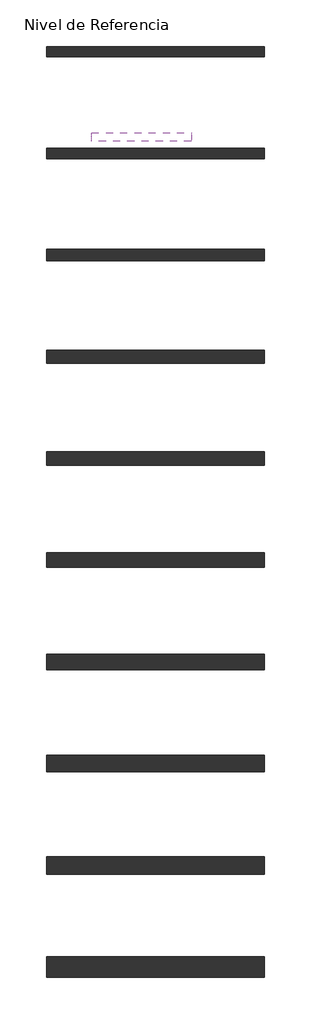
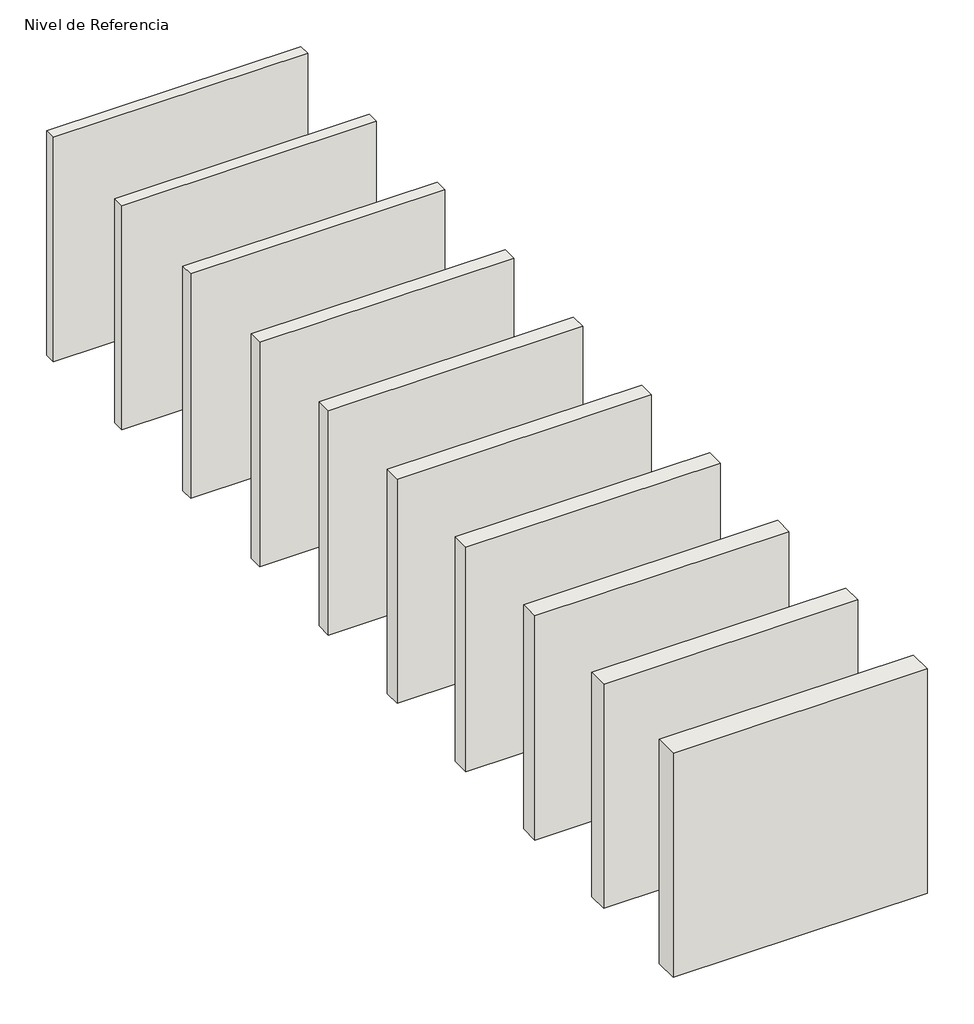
# One storey: 10 walls, 1 pipe segment.
"""IFC4 building model written with IfcOpenShell, lengths in millimetres."""

from ifc_helpers import new_model, si_unit, point, frame, frame_2d, origin, origin_with_axes, place, context, project, spatial, polyline, circle_curve, trimmed, segment, composite_curve, outline, extrude, element, save

model = new_model("IFC4")

# Units and contexts
model_context = context("Model", 3, world=origin())
ifc_project = project(units=[si_unit("LENGTHUNIT", "METRE", prefix="MILLI")], contexts=[model_context])

# Site, building, storey
site = spatial("IfcSite", under=ifc_project)
building = spatial("IfcBuilding", under=site)
storey = spatial("IfcBuildingStorey", under=building, Name="Nivel de Referencia", Elevation=0.0)

# Pipe segment
placement = place(None, origin())
element("IfcPipeSegment", 1, ObjectType="Default", at=placement, inside=storey, context=model_context, shape_type="SweptSolid", body=[
    extrude(outline(composite_curve([segment(trimmed(circle_curve(frame_2d((-1901.9152986, 2743.2)), 84.1375), [point((-1986.0527986, 2743.2))], [point((-1901.9152986, 2827.3375))], False, "CARTESIAN"), True, "CONTINUOUS"), segment(trimmed(circle_curve(frame_2d((-1901.9152986, 2743.2)), 84.1375), [point((-1901.9152986, 2827.3375))], [point((-1817.7777986, 2743.2))], False, "CARTESIAN"), True, "CONTINUOUS"), segment(trimmed(circle_curve(frame_2d((-1901.9152986, 2743.2)), 84.1375), [point((-1817.7777986, 2743.2))], [point((-1901.9152986, 2659.0625))], False, "CARTESIAN"), True, "CONTINUOUS"), segment(trimmed(circle_curve(frame_2d((-1901.9152986, 2743.2)), 84.1375), [point((-1901.9152986, 2659.0625))], [point((-1986.0527986, 2743.2))], False, "CARTESIAN"), True, "CONTINUOUS")], self_intersect=False)), frame((-5267.2929399, 0.0, 0.0), z_axis=(1.0, 0.0, 0.0), x_axis=(0.0, 1.0, 0.0)), (0.0, 0.0, 1.0), 1960.0),
])

# Walls
element("IfcWall", 2, ObjectType="Fachada REDArt Acabado Silicona 50mm", at=placement, inside=storey, context=model_context, shape_type="SweptSolid", body=[
    extrude(outline(polyline([(-1870.4218601, -318.1432876), (-6157.9916141, -318.1432876), (-6157.9916141, -121.0432876), (-1870.4218601, -121.0432876), (-1870.4218601, -318.1432876)])), origin_with_axes(), (0.0, 0.0, 1.0), 4000.0),
])
element("IfcWall", 3, ObjectType="Fachada REDArt Acabado Silicona 60mm", at=placement, inside=storey, context=model_context, shape_type="SweptSolid", body=[
    extrude(outline(polyline([(-1870.4218601, -2323.1432876), (-6157.9916141, -2323.1432876), (-6157.9916141, -2116.0432876), (-1870.4218601, -2116.0432876), (-1870.4218601, -2323.1432876)])), origin_with_axes(), (0.0, 0.0, 1.0), 4000.0),
])
element("IfcWall", 4, ObjectType="Fachada REDArt Acabado Silicona 80mm", at=placement, inside=storey, context=model_context, shape_type="SweptSolid", body=[
    extrude(outline(polyline([(-1870.4218601, -4333.1432876), (-6157.9916141, -4333.1432876), (-6157.9916141, -4106.0432876), (-1870.4218601, -4106.0432876), (-1870.4218601, -4333.1432876)])), origin_with_axes(), (0.0, 0.0, 1.0), 4000.0),
])
element("IfcWall", 5, ObjectType="Fachada REDArt Acabado Silicona 100mm", at=placement, inside=storey, context=model_context, shape_type="SweptSolid", body=[
    extrude(outline(polyline([(-1870.4218601, -6343.1432876), (-6157.9916141, -6343.1432876), (-6157.9916141, -6096.0432876), (-1870.4218601, -6096.0432876), (-1870.4218601, -6343.1432876)])), origin_with_axes(), (0.0, 0.0, 1.0), 4000.0),
])
element("IfcWall", 6, ObjectType="Fachada REDArt Acabado Silicona 120mm", at=placement, inside=storey, context=model_context, shape_type="SweptSolid", body=[
    extrude(outline(polyline([(-1870.4218601, -8353.1432876), (-6157.9916141, -8353.1432876), (-6157.9916141, -8086.0432876), (-1870.4218601, -8086.0432876), (-1870.4218601, -8353.1432876)])), origin_with_axes(), (0.0, 0.0, 1.0), 4000.0),
])
element("IfcWall", 7, ObjectType="Fachada REDArt Acabado Silicona 140mm", at=placement, inside=storey, context=model_context, shape_type="SweptSolid", body=[
    extrude(outline(polyline([(-1870.4218601, -10363.1432876), (-6157.9916141, -10363.1432876), (-6157.9916141, -10076.0432876), (-1870.4218601, -10076.0432876), (-1870.4218601, -10363.1432876)])), origin_with_axes(), (0.0, 0.0, 1.0), 4000.0),
])
element("IfcWall", 8, ObjectType="Fachada REDArt Acabado Silicona 160mm", at=placement, inside=storey, context=model_context, shape_type="SweptSolid", body=[
    extrude(outline(polyline([(-1870.4218601, -12373.1432876), (-6157.9916141, -12373.1432876), (-6157.9916141, -12066.0432876), (-1870.4218601, -12066.0432876), (-1870.4218601, -12373.1432876)])), origin_with_axes(), (0.0, 0.0, 1.0), 4000.0),
])
element("IfcWall", 9, ObjectType="Fachada REDArt Acabado Silicona 180mm", at=placement, inside=storey, context=model_context, shape_type="SweptSolid", body=[
    extrude(outline(polyline([(-1870.4218601, -14383.1432876), (-6157.9916141, -14383.1432876), (-6157.9916141, -14056.0432876), (-1870.4218601, -14056.0432876), (-1870.4218601, -14383.1432876)])), origin_with_axes(), (0.0, 0.0, 1.0), 4000.0),
])
element("IfcWall", 10, ObjectType="Fachada REDArt Acabado Silicona 200mm", at=placement, inside=storey, context=model_context, shape_type="SweptSolid", body=[
    extrude(outline(polyline([(-1870.4218601, -16393.1432876), (-6157.9916141, -16393.1432876), (-6157.9916141, -16046.0432876), (-1870.4218601, -16046.0432876), (-1870.4218601, -16393.1432876)])), origin_with_axes(), (0.0, 0.0, 1.0), 4000.0),
])
element("IfcWall", 11, ObjectType="Fachada REDArt Acabado Silicona 260mm", at=placement, inside=storey, context=model_context, shape_type="SweptSolid", body=[
    extrude(outline(polyline([(-1870.4218601, -18423.1432876), (-6157.9916141, -18423.1432876), (-6157.9916141, -18016.0432876), (-1870.4218601, -18016.0432876), (-1870.4218601, -18423.1432876)])), origin_with_axes(), (0.0, 0.0, 1.0), 4000.0),
])

save(model, "model.ifc")
